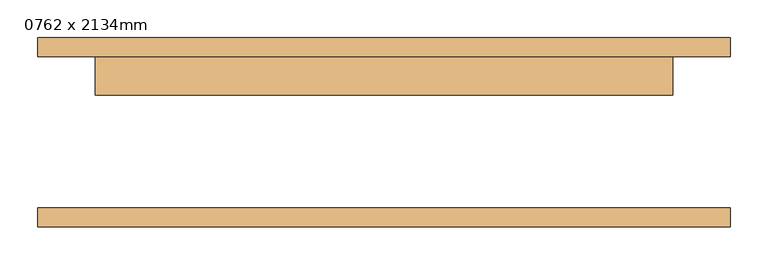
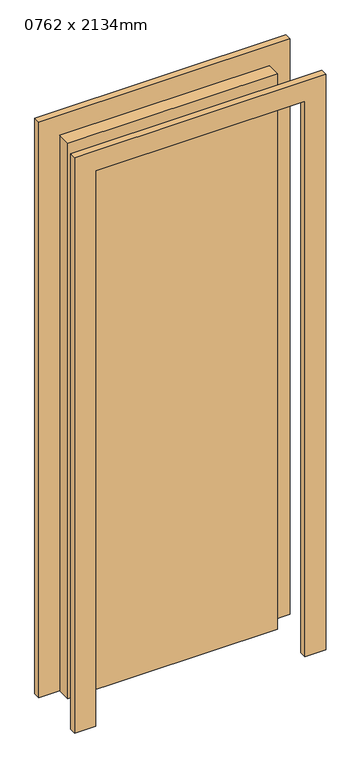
"""IFC4 building model written with IfcOpenShell, lengths in millimetres: door geometry, M_單個嵌平 : 0762 x 2134mm."""

from ifc_helpers import new_model, si_unit, frame, origin, origin_with_axes, place, context, project, spatial, polyline, outline, extrude, source, transform, mapped, element, save


def door_0762_x_2134mm_85379237(model_context):
    return source(origin(), model_context, "Body", "SweptSolid", [
        extrude(outline(polyline([(2210.0, -457.0), (0.0, -457.0), (0.0, -381.0), (2134.0, -381.0), (2134.0, 381.0), (0.0, 381.0), (0.0, 457.0), (2210.0, 457.0), (2210.0, -457.0)])), frame((0.0, 100.0, 0.0), z_axis=(0.0, 1.0, 0.0), x_axis=(0.0, 0.0, 1.0)), (0.0, 0.0, 1.0), 25.0),
        extrude(outline(polyline([(2210.0, 457.0), (2210.0, -457.0), (0.0, -457.0), (0.0, -381.0), (2134.0, -381.0), (2134.0, 381.0), (0.0, 381.0), (0.0, 457.0), (2210.0, 457.0)])), frame((0.0, -125.0, 0.0), z_axis=(0.0, 1.0, 0.0), x_axis=(0.0, 0.0, 1.0)), (0.0, 0.0, 1.0), 25.0),
        extrude(outline(polyline([(381.0, 49.0), (-381.0, 49.0), (-381.0, 100.0), (381.0, 100.0), (381.0, 49.0)])), origin_with_axes(), (0.0, 0.0, 1.0), 2134.0),
    ])


if __name__ == "__main__":
    model = new_model("IFC4")
    model_context = context("Model", 3, world=origin())
    ifc_project = project(units=[si_unit("LENGTHUNIT", "METRE", prefix="MILLI")], contexts=[model_context])
    site = spatial("IfcSite", under=ifc_project)
    building = spatial("IfcBuilding", under=site)
    placement = place(None, origin())
    door_0762_x_2134mm_shape = door_0762_x_2134mm_85379237(model_context)
    element("IfcDoor", 1, ObjectType="M_單個嵌平 : 0762 x 2134mm", at=placement, inside=building, context=model_context, shape_type="MappedRepresentation", body=[
        mapped(door_0762_x_2134mm_shape, transform((0.0, 0.0, 0.0), x_axis=(1.0, 0.0, 0.0), y_axis=(0.0, 1.0, 0.0), z_axis=(0.0, 0.0, 1.0))),
    ])
    save(model, "model.ifc")
